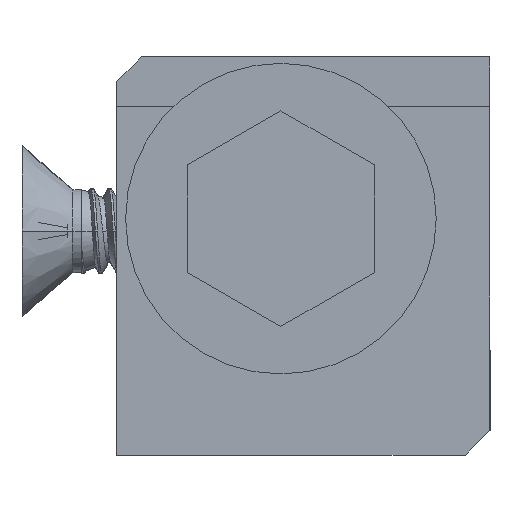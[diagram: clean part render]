
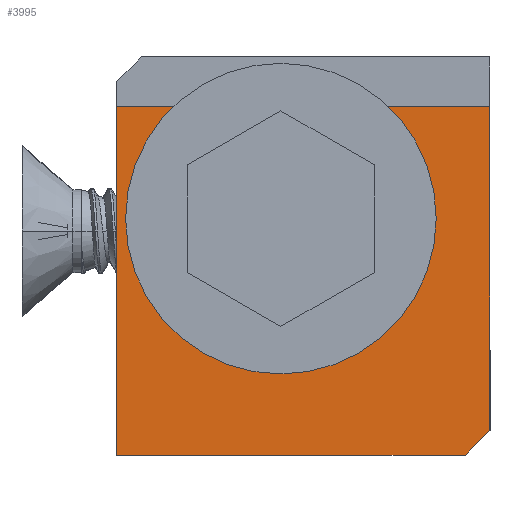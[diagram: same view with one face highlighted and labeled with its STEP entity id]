
A CAD part, left-side view. The second image highlights one B-rep face of the part: STEP entity #3995.
In plain terms, the highlighted planar face has unit normal (-1, 0, 0) as drawn and (0, 0, 1) by its records, which use the part's own axes.
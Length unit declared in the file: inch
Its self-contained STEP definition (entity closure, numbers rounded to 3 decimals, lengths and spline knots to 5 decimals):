
#405 = LINE ( 'NONE', #12854, #525 ) ;
#525 = VECTOR ( 'NONE', #16881, 39.37008 ) ;
#777 = CARTESIAN_POINT ( 'NONE',  ( -0.025, -0.05, -0.6746 ) ) ;
#1145 = VERTEX_POINT ( 'NONE', #15447 ) ;
#1255 = DIRECTION ( 'NONE',  ( 1., 0., 0. ) ) ;
#1376 = CARTESIAN_POINT ( 'NONE',  ( 0.114, 0.16, -0.6746 ) ) ;
#1682 = CARTESIAN_POINT ( 'NONE',  ( 0., 0., -0.6746 ) ) ;
#1996 = DIRECTION ( 'NONE',  ( -1., 0., 0. ) ) ;
#2093 = AXIS2_PLACEMENT_3D ( 'NONE', #5659, #9598, #1255 ) ;
#2293 = AXIS2_PLACEMENT_3D ( 'NONE', #11058, #4102, #17008 ) ;
#2621 = CARTESIAN_POINT ( 'NONE',  ( 0.261, 0.16, -0.6746 ) ) ;
#2850 = CARTESIAN_POINT ( 'NONE',  ( -0.05, -0.05, -0.6746 ) ) ;
#3042 = DIRECTION ( 'NONE',  ( 1., 0., 0. ) ) ;
#3215 = VERTEX_POINT ( 'NONE', #6753 ) ;
#3873 = LINE ( 'NONE', #17526, #5890 ) ;
#3995 = ADVANCED_FACE ( 'NONE', ( #16970, #12852 ), #9917, .T. ) ;
#4102 = DIRECTION ( 'NONE',  ( 0., 0., 1. ) ) ;
#4241 = LINE ( 'NONE', #2850, #5287 ) ;
#4605 = VERTEX_POINT ( 'NONE', #777 ) ;
#4721 = CIRCLE ( 'NONE', #2093, 0.0735 ) ;
#4830 = ORIENTED_EDGE ( 'NONE', *, *, #8442, .F. ) ;
#5018 = LINE ( 'NONE', #16274, #10860 ) ;
#5287 = VECTOR ( 'NONE', #13778, 39.37008 ) ;
#5506 = ORIENTED_EDGE ( 'NONE', *, *, #9486, .T. ) ;
#5659 = CARTESIAN_POINT ( 'NONE',  ( 0.1875, 0.16, -0.6746 ) ) ;
#5890 = VECTOR ( 'NONE', #15123, 39.37008 ) ;
#6138 = EDGE_LOOP ( 'NONE', ( #4830, #9302 ) ) ;
#6317 = CARTESIAN_POINT ( 'NONE',  ( -0.05, 0.325, -0.6746 ) ) ;
#6325 = ORIENTED_EDGE ( 'NONE', *, *, #7229, .T. ) ;
#6681 = ORIENTED_EDGE ( 'NONE', *, *, #15214, .F. ) ;
#6753 = CARTESIAN_POINT ( 'NONE',  ( 0.3, 0.325, -0.6746 ) ) ;
#7229 = EDGE_CURVE ( 'NONE', #4605, #10583, #4241, .T. ) ;
#7321 = CARTESIAN_POINT ( 'NONE',  ( 0.3, -0.05, -0.6746 ) ) ;
#8442 = EDGE_CURVE ( 'NONE', #12068, #9719, #4721, .T. ) ;
#8908 = EDGE_CURVE ( 'NONE', #3215, #10664, #5018, .T. ) ;
#9061 = ORIENTED_EDGE ( 'NONE', *, *, #17097, .T. ) ;
#9302 = ORIENTED_EDGE ( 'NONE', *, *, #16085, .F. ) ;
#9345 = CARTESIAN_POINT ( 'NONE',  ( 0.3, -0.05, -0.6746 ) ) ;
#9486 = EDGE_CURVE ( 'NONE', #10664, #1145, #3873, .T. ) ;
#9598 = DIRECTION ( 'NONE',  ( 0., 0., 1. ) ) ;
#9719 = VERTEX_POINT ( 'NONE', #1376 ) ;
#9917 = PLANE ( 'NONE',  #16728 ) ;
#10481 = ORIENTED_EDGE ( 'NONE', *, *, #8908, .T. ) ;
#10583 = VERTEX_POINT ( 'NONE', #7321 ) ;
#10664 = VERTEX_POINT ( 'NONE', #6317 ) ;
#10860 = VECTOR ( 'NONE', #1996, 39.37008 ) ;
#11058 = CARTESIAN_POINT ( 'NONE',  ( 0.1875, 0.16, -0.6746 ) ) ;
#11395 = DIRECTION ( 'NONE',  ( 0., 0., 1. ) ) ;
#11888 = EDGE_LOOP ( 'NONE', ( #6325, #9061, #10481, #5506, #6681 ) ) ;
#12068 = VERTEX_POINT ( 'NONE', #2621 ) ;
#12196 = DIRECTION ( 'NONE',  ( 0., 1., 0. ) ) ;
#12783 = VECTOR ( 'NONE', #12196, 39.37008 ) ;
#12852 = FACE_OUTER_BOUND ( 'NONE', #11888, .T. ) ;
#12854 = CARTESIAN_POINT ( 'NONE',  ( -0.025, -0.05, -0.6746 ) ) ;
#13778 = DIRECTION ( 'NONE',  ( 1., 0., 0. ) ) ;
#15123 = DIRECTION ( 'NONE',  ( 0., -1., 0. ) ) ;
#15214 = EDGE_CURVE ( 'NONE', #4605, #1145, #405, .T. ) ;
#15447 = CARTESIAN_POINT ( 'NONE',  ( -0.05, -0.025, -0.6746 ) ) ;
#15754 = CIRCLE ( 'NONE', #2293, 0.0735 ) ;
#16085 = EDGE_CURVE ( 'NONE', #9719, #12068, #15754, .T. ) ;
#16274 = CARTESIAN_POINT ( 'NONE',  ( 0.3, 0.325, -0.6746 ) ) ;
#16667 = LINE ( 'NONE', #9345, #12783 ) ;
#16728 = AXIS2_PLACEMENT_3D ( 'NONE', #1682, #11395, #3042 ) ;
#16881 = DIRECTION ( 'NONE',  ( -0.707, 0.707, 0. ) ) ;
#16970 = FACE_BOUND ( 'NONE', #6138, .T. ) ;
#17008 = DIRECTION ( 'NONE',  ( 1., 0., 0. ) ) ;
#17097 = EDGE_CURVE ( 'NONE', #10583, #3215, #16667, .T. ) ;
#17526 = CARTESIAN_POINT ( 'NONE',  ( -0.05, 0.275, -0.6746 ) ) ;
